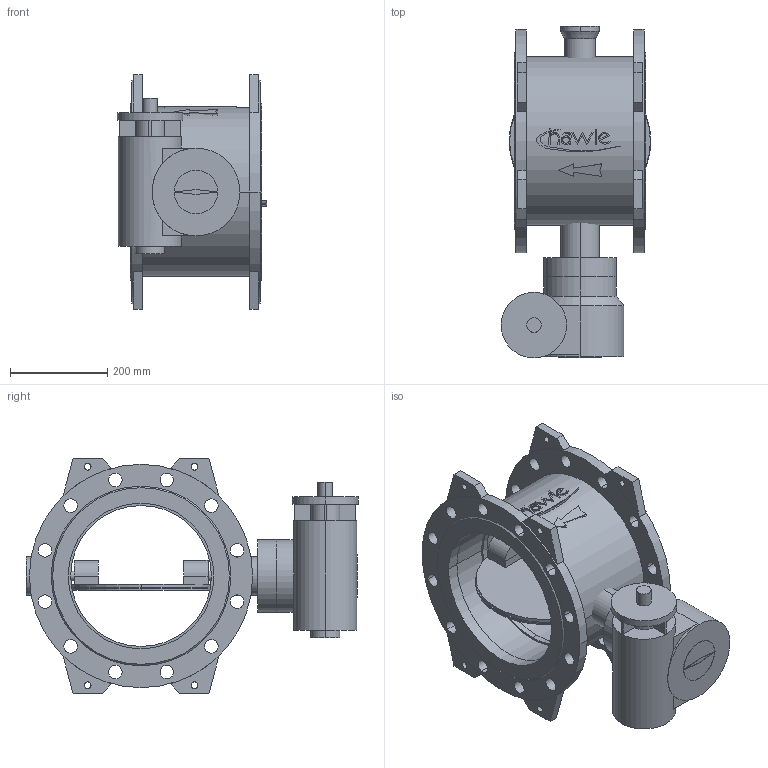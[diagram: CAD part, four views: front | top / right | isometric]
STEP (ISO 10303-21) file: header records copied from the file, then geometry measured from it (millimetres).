
FILE_DESCRIPTION(('STEP AP214'),'1');
FILE_NAME('S:/EK/USER/CAT6/3DHomepage_27-04-2012/neu_08-01-2013/9881K/9881K_PN16_DN300.STP','2013-02-26T15:22:58',(' '),(' '),'Spatial InterOp 3D',' ',' ');
FILE_SCHEMA(('automotive_design'));
Length unit declared in the file: millimetre
Products named in the file (46): 3D-Objekt
Bounding box: 308.5 x 684 x 484 mm (x, y, z)
Volume: 19154578.5 mm3; surface area: 1870530.3 mm2
Topology: 46 solids, 46 shells, 369 faces, 820 edges, 546 vertices
Faces by surface type: plane 196, cylinder 165, cone 8
Entity records: 14616 total; most frequent: DIRECTION 2000, CARTESIAN_POINT 1906, ORIENTED_EDGE 1640, EDGE_CURVE 820, AXIS2_PLACEMENT_3D 766, VERTEX_POINT 546, LINE 468, VECTOR 468
